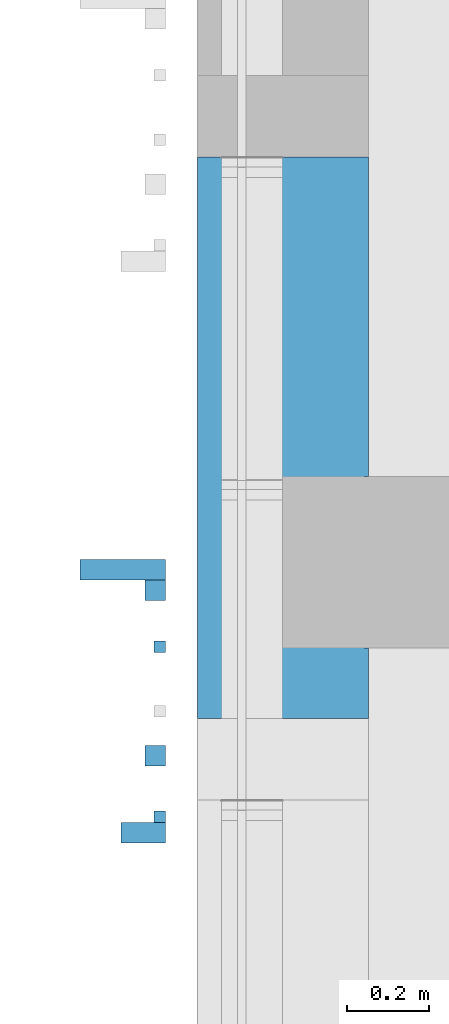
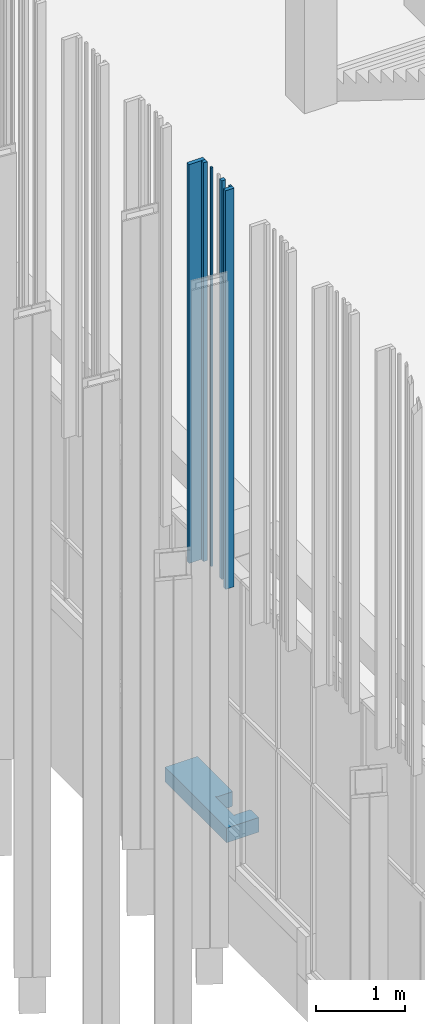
# One storey, part 108 of 390: 7 walls.
"""IFC2X3 building model written with IfcOpenShell, lengths in millimetres."""

from ifc_helpers import new_model, entity, si_unit, converted_unit, derived_unit, money_unit, direction, frame, origin_with_axes, place, context, subcontext, project, spatial, faceted_brep, material, material_list, type_object, element, save


model = new_model("IFC2X3")

# Units and contexts
model_context = context("Model", 3, precision=1e-05, world=origin_with_axes(), true_north=direction((0.0, 1.0)))
body_context = subcontext(model_context, "Body", "Model", "MODEL_VIEW")
ifc_project = project(units=[si_unit("LENGTHUNIT", "METRE", prefix="MILLI"), si_unit("AREAUNIT", "SQUARE_METRE"), si_unit("VOLUMEUNIT", "CUBIC_METRE"), converted_unit("PLANEANGLEUNIT", "DEGREE", entity("IfcPlaneAngleMeasure", 0.0174532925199), si_unit("PLANEANGLEUNIT", "RADIAN"), dimensions=[0, 0, 0, 0, 0, 0, 0]), si_unit("SOLIDANGLEUNIT", "STERADIAN"), money_unit("EUR"), converted_unit("TIMEUNIT", "Year", entity("IfcTimeMeasure", 31556926.0), si_unit("TIMEUNIT", "SECOND"), dimensions=[0, 0, 1, 0, 0, 0, 0]), si_unit("MASSUNIT", "GRAM", prefix="KILO"), si_unit("THERMODYNAMICTEMPERATUREUNIT", "DEGREE_CELSIUS"), si_unit("LUMINOUSINTENSITYUNIT", "LUMEN"), si_unit("ENERGYUNIT", "JOULE", prefix="MEGA"), derived_unit("THERMALCONDUCTANCEUNIT", [(si_unit("POWERUNIT", "WATT"), 1), (si_unit("LENGTHUNIT", "METRE"), -1), (si_unit("THERMODYNAMICTEMPERATUREUNIT", "KELVIN"), -1)]), derived_unit("SPECIFICHEATCAPACITYUNIT", [(si_unit("ENERGYUNIT", "JOULE"), 1), (si_unit("MASSUNIT", "GRAM", prefix="KILO"), -1), (si_unit("THERMODYNAMICTEMPERATUREUNIT", "KELVIN"), -1)]), derived_unit("MASSDENSITYUNIT", [(si_unit("MASSUNIT", "GRAM", prefix="KILO"), 1), (si_unit("VOLUMEUNIT", "CUBIC_METRE"), -1)])], contexts=[model_context])

# Site, building, storey
site_placement = place(None, origin_with_axes())
site = spatial("IfcSite", under=ifc_project, at=site_placement, Name="Site", CompositionType="ELEMENT")
building_placement = place(site_placement, origin_with_axes())
building = spatial("IfcBuilding", under=site, at=building_placement, Name="Building", CompositionType="ELEMENT")
storey_placement = place(building_placement, origin_with_axes())
storey = spatial("IfcBuildingStorey", under=building, at=storey_placement, Name="1 korrus", CompositionType="ELEMENT", Elevation=0.0)

# Walls
ifc_material_1 = material(Name="Site specified")
wall_type_1 = type_object("IfcWallType", Name="Puitfassaadi ribistik", PredefinedType="NOTDEFINED")
wall_1_placement = place(storey_placement, frame((122308.499997, 52152.0000095, 4424.99966101), z_axis=(0.0, 0.0, 1.0), x_axis=(0.0, 1.0, 0.0)))
element("IfcWall", 1, at=wall_1_placement, inside=storey, type_object=wall_type_1, material=ifc_material_1, Name="Site specified", context=body_context, shape_type="Brep", body=[
    faceted_brep([(25.0, 104.5, 5440.00033899), (25.0, 104.5, 0.0), (-25.0, 104.5, 0.0), (-25.0, 104.5, 5440.00033899), (25.0, -104.5, 5440.00033899), (25.0, -104.5, 0.0), (-25.0, -104.5, 0.0), (-25.0, -104.5, 5440.00033899)], [[[0, 1, 2, 3]], [[4, 5, 1, 0]], [[2, 1, 5, 6]], [[3, 2, 6, 7]], [[4, 0, 3, 7]], [[7, 6, 5, 4]]]),
])
wall_2_placement = place(storey_placement, frame((122358.499997, 51508.0000095, 4424.99966101), z_axis=(0.0, 0.0, 1.0), x_axis=(0.0, 1.0, 0.0)))
element("IfcWall", 2, at=wall_2_placement, inside=storey, type_object=wall_type_1, material=ifc_material_1, Name="Site specified", context=body_context, shape_type="Brep", body=[
    faceted_brep([(25.0, 54.5, 5440.00033899), (25.0, 54.5, 0.0), (-25.0, 54.5, 0.0), (-25.0, 54.5, 5440.00033899), (25.0, -54.5, 5440.00033899), (25.0, -54.5, 0.0), (-25.0, -54.5, 0.0), (-25.0, -54.5, 5440.00033899)], [[[0, 1, 2, 3]], [[4, 5, 1, 0]], [[2, 1, 5, 6]], [[3, 2, 6, 7]], [[4, 0, 3, 7]], [[7, 6, 5, 4]]]),
])
wall_3_placement = place(storey_placement, frame((122398.999997, 51547.0000095, 4424.99966101), z_axis=(0.0, 0.0, 1.0), x_axis=(0.0, 1.0, 0.0)))
element("IfcWall", 3, at=wall_3_placement, inside=storey, type_object=wall_type_1, material=ifc_material_1, Name="Site specified", context=body_context, shape_type="Brep", body=[
    faceted_brep([(14.0, 14.0, 5440.00033899), (14.0, 14.0, 0.0), (-14.0, 14.0, 0.0), (-14.0, 14.0, 5440.00033899), (14.0, -14.0, 5440.00033899), (14.0, -14.0, 0.0), (-14.0, -14.0, 0.0), (-14.0, -14.0, 5440.00033899)], [[[0, 1, 2, 3]], [[4, 5, 1, 0]], [[2, 1, 5, 6]], [[3, 2, 6, 7]], [[4, 0, 3, 7]], [[7, 6, 5, 4]]]),
])
for number, where, z_axis, x_axis, name in (
    (4, (122387.999997, 52102.0000095, 4424.99966101), (0.0, 0.0, 1.0), (0.0, 1.0, 0.0), "Site specified"),
    (5, (122387.999997, 51696.0000095, 4424.99966101), (0.0, 0.0, 1.0), (0.0, 1.0, 0.0), "Site specified"),
):
    element("IfcWall", number, at=place(storey_placement, frame(where, z_axis=z_axis, x_axis=x_axis)), inside=storey, type_object=wall_type_1, material=ifc_material_1, Name=name, context=body_context, shape_type="Brep", body=[
        faceted_brep([(25.0, 25.0, 5440.00033899), (25.0, 25.0, 0.0), (-25.0, 25.0, 0.0), (-25.0, 25.0, 5440.00033899), (25.0, -25.0, 5440.00033899), (25.0, -25.0, 0.0), (-25.0, -25.0, 0.0), (-25.0, -25.0, 5440.00033899)], [[[0, 1, 2, 3]], [[4, 5, 1, 0]], [[2, 1, 5, 6]], [[3, 2, 6, 7]], [[4, 0, 3, 7]], [[7, 6, 5, 4]]]),
    ])
wall_4_placement = place(storey_placement, frame((122398.999997, 51963.0000095, 4424.99966101), z_axis=(0.0, 0.0, 1.0), x_axis=(0.0, 1.0, 0.0)))
element("IfcWall", 6, at=wall_4_placement, inside=storey, type_object=wall_type_1, material=ifc_material_1, Name="Site specified", context=body_context, shape_type="Brep", body=[
    faceted_brep([(14.0, 14.0, 5440.00033899), (14.0, 14.0, 0.0), (-14.0, 14.0, 0.0), (-14.0, 14.0, 5440.00033899), (14.0, -14.0, 5440.00033899), (14.0, -14.0, 0.0), (-14.0, -14.0, 0.0), (-14.0, -14.0, 5440.00033899)], [[[0, 1, 2, 3]], [[4, 5, 1, 0]], [[2, 1, 5, 6]], [[3, 2, 6, 7]], [[4, 0, 3, 7]], [[7, 6, 5, 4]]]),
])
ifc_material_2 = material(Name="Plaat - Sein")
ifc_material_3 = material(Name="Soojustus - Plastik Kõva")
ifc_material_4 = material(Name="Raudbetoon - Konstruktsioon")
ifc_material_5 = material(Name="Krohv - Lubjakivi")
ifc_material_list = material_list([ifc_material_2, ifc_material_3, ifc_material_3, ifc_material_4, ifc_material_4, ifc_material_5, ifc_material_5])
wall_type_2 = type_object("IfcWallType", Name="VS-05", PredefinedType="NOTDEFINED")
wall_5_placement = place(storey_placement, frame((122909.999995, 51787.5685601, 720.0), z_axis=(0.0, 0.0, 1.0), x_axis=(0.0, 1.0, 0.0)))
element("IfcWall", 7, at=wall_5_placement, inside=storey, type_object=wall_type_2, material=ifc_material_list, Name="VS-05", context=body_context, shape_type="Brep", body=[
    faceted_brep([(1374.99999999, 418.000000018, 0.0), (1374.99999999, 410.000000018, 0.0), (-5.49249534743e-09, 410.0, 0.0), (-5.59907675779e-09, 418.0, 0.0), (1374.99999999, 418.000000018, 200.0), (1374.99999999, 410.000000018, 200.0), (-5.49249534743e-09, 410.0, 200.0), (-5.59907675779e-09, 418.0, 200.0)], [[[0, 1, 2, 3]], [[0, 4, 5, 1]], [[1, 5, 6, 2]], [[3, 2, 6, 7]], [[4, 0, 3, 7]], [[5, 4, 7, 6]]]),
    faceted_brep([(1374.99999999, 410.000000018, 0.0), (1375.0, 360.000000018, 0.0), (-4.82458517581e-09, 360.0, 0.0), (-5.49249534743e-09, 410.0, 0.0), (1374.99999999, 410.000000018, 200.0), (1375.0, 360.000000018, 200.0), (-4.82458517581e-09, 360.0, 200.0), (-5.49249534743e-09, 410.0, 200.0)], [[[0, 1, 2, 3]], [[0, 4, 5, 1]], [[1, 5, 6, 2]], [[3, 2, 6, 7]], [[4, 0, 3, 7]], [[5, 4, 7, 6]]]),
    faceted_brep([(172.431446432, 219.999999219, 200.0), (592.431446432, 219.999999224, 200.0), (592.431446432, 210.000000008, 200.0), (1375.0, 210.000000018, 200.0), (1375.0, 360.000000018, 200.0), (-4.82458517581e-09, 360.0, 200.0), (-2.81374923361e-09, 210.0, 200.0), (172.431446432, 210.000000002, 200.0), (172.431446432, 219.999999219, 0.0), (592.431446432, 219.999999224, 0.0), (592.431446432, 210.000000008, 0.0), (1375.0, 210.000000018, 0.0), (1375.0, 360.000000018, 0.0), (-4.82458517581e-09, 360.0, 0.0), (-2.81374923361e-09, 210.0, 0.0), (172.431446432, 210.000000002, 0.0)], [[[0, 1, 2, 3, 4, 5, 6, 7]], [[1, 0, 8, 9]], [[10, 2, 1, 9]], [[2, 10, 11, 3]], [[11, 12, 4, 3]], [[5, 4, 12, 13]], [[5, 13, 14, 6]], [[15, 7, 6, 14]], [[0, 7, 15, 8]], [[8, 15, 14, 13, 12, 11, 10, 9]]]),
    faceted_brep([(182.431446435, 10.0000000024, 0.0), (182.431446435, 10.0000000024, 200.0), (-1.35003119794e-10, 10.0, 200.0), (-1.35003119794e-10, 10.0, 0.0), (182.431446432, 209.999999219, 200.0), (182.431446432, 209.999999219, 0.0), (-2.81374923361e-09, 210.0, 200.0), (-2.81374923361e-09, 210.0, 0.0)], [[[0, 1, 2, 3]], [[4, 1, 0, 5]], [[1, 4, 6, 2]], [[6, 7, 3, 2]], [[5, 0, 3, 7]], [[4, 5, 7, 6]]]),
    faceted_brep([(582.431446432, 209.999999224, 200.0), (582.431446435, 10.0000000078, 200.0), (1375.0, 10.0000000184, 200.0), (1375.0, 210.000000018, 200.0), (582.431446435, 10.0000000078, 0.0), (582.431446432, 209.999999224, 0.0), (1375.0, 10.0000000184, 0.0), (1375.0, 210.000000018, 0.0)], [[[0, 1, 2, 3]], [[4, 1, 0, 5]], [[1, 4, 6, 2]], [[6, 7, 3, 2]], [[5, 0, 3, 7]], [[4, 5, 7, 6]]]),
    faceted_brep([(172.431446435, 2.30215846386e-09, 0.0), (172.431446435, 2.30215846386e-09, 200.0), (0.0, 0.0, 200.0), (0.0, 0.0, 0.0), (172.431446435, 10.0000000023, 200.0), (172.431446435, 10.0000000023, 0.0), (-1.35003119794e-10, 10.0, 200.0), (-1.35003119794e-10, 10.0, 0.0)], [[[0, 1, 2, 3]], [[4, 1, 0, 5]], [[1, 4, 6, 2]], [[6, 7, 3, 2]], [[5, 0, 3, 7]], [[4, 5, 7, 6]]]),
    faceted_brep([(592.431446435, 10.0000000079, 200.0), (592.431446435, 7.9438677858e-09, 200.0), (1375.0, 1.84314785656e-08, 200.0), (1375.0, 10.0000000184, 200.0), (592.431446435, 7.9438677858e-09, 0.0), (592.431446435, 10.0000000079, 0.0), (1375.0, 1.84314785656e-08, 0.0), (1375.0, 10.0000000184, 0.0)], [[[0, 1, 2, 3]], [[4, 1, 0, 5]], [[1, 4, 6, 2]], [[6, 7, 3, 2]], [[5, 0, 3, 7]], [[4, 5, 7, 6]]]),
])

save(model, "model.ifc")
